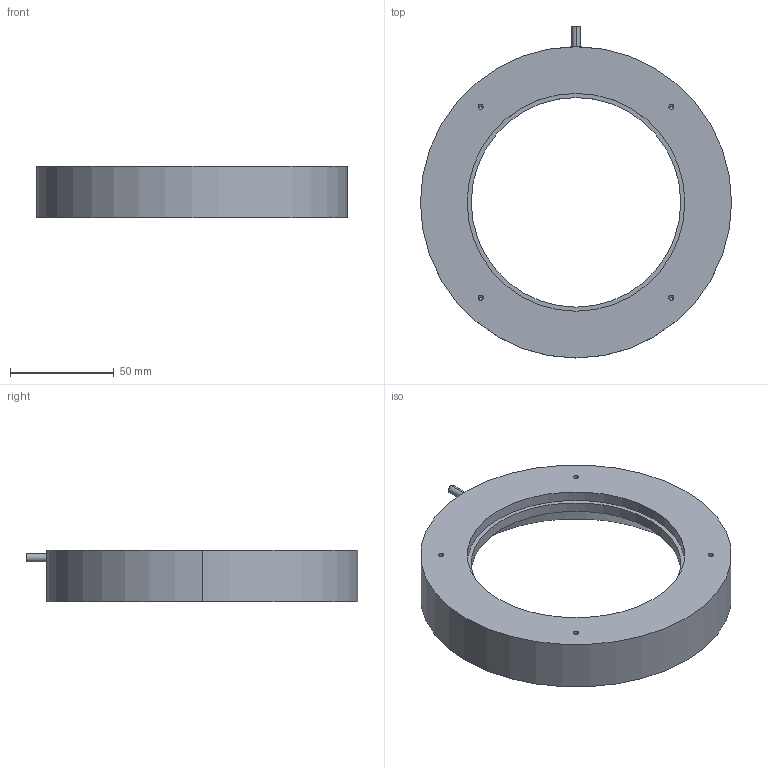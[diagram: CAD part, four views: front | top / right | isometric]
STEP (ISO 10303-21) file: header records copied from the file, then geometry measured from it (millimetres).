
FILE_DESCRIPTION (( 'STEP AP203' ), '1' );
FILE_NAME ('CRT-RL15045-¼òÒ×3DÍ¼.STEP', '2021-12-20T09:51:45', ( 'Admin' ), ( '' ), 'SwSTEP 2.0', 'SolidWorks 2018', '' );
FILE_SCHEMA (( 'CONFIG_CONTROL_DESIGN' ));
Length unit declared in the file: millimetre
Products named in the file (1): CRT-RL15045-潠眢3D芞
Bounding box: 150 x 160 x 25 mm (x, y, z)
Volume: 199037.3 mm3; surface area: 36902.2 mm2
Topology: 1 solids, 1 shells, 30 faces, 68 edges, 38 vertices
Faces by surface type: cylinder 16, cone 10, plane 4
Entity records: 921 total; most frequent: CARTESIAN_POINT 185, DIRECTION 152, ORIENTED_EDGE 120, AXIS2_PLACEMENT_3D 63, EDGE_CURVE 60, VERTEX_POINT 38, EDGE_LOOP 38, CIRCLE 32
